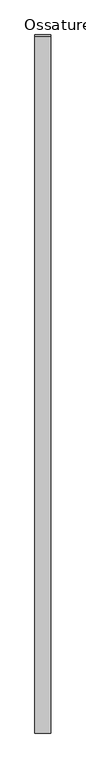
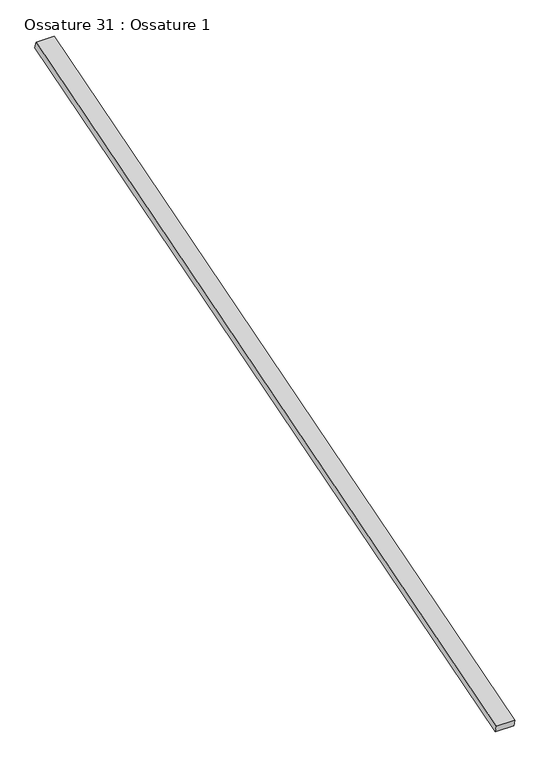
"""IFC4 building model written with IfcOpenShell, lengths in millimetres: beam geometry, Ossature 31 : Ossature 1."""

import ifcopenshell
import ifcopenshell.guid

model = None  # the IFC model being written
_history = None  # IfcOwnerHistory: only IFC2X3 demands one
_inside = {}  # id of a spatial element -> (the spatial element, [elements in it])
_under = {}  # id of a project, library or spatial element -> (it, [spatial elements below it])
_declared = {}  # id of a project -> (the project, [libraries it declares])
_typed = {}  # id of a type object -> (the type object, [elements of that type])
_made_of = {}  # id of a material, layer set ... -> (it, [elements and type objects made of it])


def new_model(schema):
    """Start an empty IFC model of exactly this schema.

    Asked for "IFC4X3", IfcOpenShell would pick the latest addendum, in which some entities
    have other attributes; the version numbers below select the first issue.
    IFC2X3 requires an IfcOwnerHistory on every rooted entity: one is made here for all.
    """
    global model, _history
    if schema == "IFC4X3":
        model = ifcopenshell.file(schema_version=(4, 3, 0, 0))
    else:
        model = ifcopenshell.file(schema=schema)
    _inside.clear()
    _under.clear()
    _declared.clear()
    _typed.clear()
    _made_of.clear()
    _history = None
    if model.schema == "IFC2X3":
        org = make("IfcOrganization", Name="unknown")
        user = make(
            "IfcPersonAndOrganization",
            ThePerson=make("IfcPerson", FamilyName="unknown"),
            TheOrganization=org,
        )
        app = make(
            "IfcApplication",
            ApplicationDeveloper=org,
            Version="unknown",
            ApplicationFullName="unknown",
            ApplicationIdentifier="unknown",
        )
        _history = make(
            "IfcOwnerHistory",
            OwningUser=user,
            OwningApplication=app,
            ChangeAction="ADDED",
            CreationDate=0,
        )
    return model


def make(cls, **values):
    """One entity of the class cls with the attributes given. An attribute that is None is left unset."""
    return model.create_entity(
        cls, **{name: value for name, value in values.items() if value is not None}
    )


def rooted(cls, **values):
    """An entity with a GlobalId (a new one), such as an element, a storey or a relation."""
    return make(cls, GlobalId=ifcopenshell.guid.new(), OwnerHistory=_history, **values)


def si_unit(unit_type, name, prefix=None):
    """IfcSIUnit, for example si_unit("LENGTHUNIT", "METRE", prefix="MILLI")."""
    return make("IfcSIUnit", UnitType=unit_type, Prefix=prefix, Name=name)


def assignment(units):
    """IfcUnitAssignment: the units of a project."""
    return None if units is None else make("IfcUnitAssignment", Units=units)


def point(xyz):
    """IfcCartesianPoint."""
    return None if xyz is None else make("IfcCartesianPoint", Coordinates=xyz)


def direction(xyz):
    """IfcDirection."""
    return None if xyz is None else make("IfcDirection", DirectionRatios=xyz)


def frame(location, z_axis=None, x_axis=None):
    """IfcAxis2Placement3D, a coordinate frame: its origin and axes. An axis left out is left unset."""
    return make(
        "IfcAxis2Placement3D",
        Location=point(location),
        Axis=direction(z_axis),
        RefDirection=direction(x_axis),
    )


def origin():
    """The frame at (0, 0, 0) with its axes left unset."""
    return frame((0.0, 0.0, 0.0))


def place(relative_to, where):
    """IfcLocalPlacement: puts the frame where relative to a parent placement (None: the world)."""
    return make(
        "IfcLocalPlacement", PlacementRelTo=relative_to, RelativePlacement=where
    )


def context(
    kind, dimensions, precision=None, world=None, true_north=None, identifier=None
):
    """IfcGeometricRepresentationContext, for example the 3D "Model" context."""
    return make(
        "IfcGeometricRepresentationContext",
        ContextIdentifier=identifier,
        ContextType=kind,
        CoordinateSpaceDimension=dimensions,
        Precision=precision,
        WorldCoordinateSystem=world,
        TrueNorth=true_north,
    )


def project(units=None, contexts=None):
    """IfcProject with its units and contexts."""
    return rooted(
        "IfcProject",
        Name="project",
        RepresentationContexts=contexts,
        UnitsInContext=assignment(units),
    )


def spatial(cls, under=None, at=None, **own):
    """A site, building, storey or space (cls), placed at a placement, below another one or the project."""
    s = rooted(cls, ObjectPlacement=at, **own)
    if under is not None:
        _under.setdefault(under.id(), (under, []))[1].append(s)
    return s


def polyline(points):
    """IfcPolyline through the points."""
    return make("IfcPolyline", Points=[point(p) for p in points])


def outline(outer, holes=None, kind="AREA"):
    """IfcArbitraryClosedProfileDef: a profile drawn as a closed curve; with holes, ...WithVoids."""
    if holes is None:
        return make("IfcArbitraryClosedProfileDef", ProfileType=kind, OuterCurve=outer)
    return make(
        "IfcArbitraryProfileDefWithVoids",
        ProfileType=kind,
        OuterCurve=outer,
        InnerCurves=holes,
    )


def extrude(swept, where, along, depth):
    """IfcExtrudedAreaSolid: the profile swept, set in the frame where, extruded along a direction by depth."""
    return make(
        "IfcExtrudedAreaSolid",
        SweptArea=swept,
        Position=where,
        ExtrudedDirection=direction(along),
        Depth=depth,
    )


def shape(context_of_items, identifier, shape_type, items):
    """IfcShapeRepresentation: the items that make up one representation, for example the "Body"."""
    return make(
        "IfcShapeRepresentation",
        ContextOfItems=context_of_items,
        RepresentationIdentifier=identifier,
        RepresentationType=shape_type,
        Items=items,
    )


def source(mapping_origin, context_of_items, identifier, shape_type, items):
    """IfcRepresentationMap: a shape defined once, which mapped items show again and again."""
    return make(
        "IfcRepresentationMap",
        MappingOrigin=mapping_origin,
        MappedRepresentation=shape(context_of_items, identifier, shape_type, items),
    )


def transform(
    local_origin,
    x_axis=None,
    y_axis=None,
    z_axis=None,
    scale=None,
    scale2=None,
    scale3=None,
    uniform=True,
):
    """IfcCartesianTransformationOperator3D, or its non-uniform kind. x_axis, y_axis, z_axis: its Axis1, 2, 3."""
    if uniform:
        return make(
            "IfcCartesianTransformationOperator3D",
            Axis1=direction(x_axis),
            Axis2=direction(y_axis),
            LocalOrigin=point(local_origin),
            Scale=scale,
            Axis3=direction(z_axis),
        )
    return make(
        "IfcCartesianTransformationOperator3DnonUniform",
        Axis1=direction(x_axis),
        Axis2=direction(y_axis),
        LocalOrigin=point(local_origin),
        Scale=scale,
        Axis3=direction(z_axis),
        Scale2=scale2,
        Scale3=scale3,
    )


def mapped(mapping_source, mapping_target):
    """IfcMappedItem: shows the shape of a source again, moved by a transform."""
    return make(
        "IfcMappedItem", MappingSource=mapping_source, MappingTarget=mapping_target
    )


def made_of(thing, what):
    """Note that an element or type object is made of a material, layer set ...; save() writes the relation."""
    if what is not None:
        _made_of.setdefault(what.id(), (what, []))[1].append(thing)
    return thing


def element(
    cls,
    number,
    at=None,
    inside=None,
    cuts=None,
    type_object=None,
    material=None,
    context=None,
    identifier="Body",
    shape_type=None,
    held_by="IfcProductDefinitionShape",
    body=None,
    shapes=None,
    **own,
):
    """One element of the class cls, such as IfcWall. Its Tag is "e" and its number.

    at: its placement. inside: the storey or other place that contains it. cuts: it is an
    opening in that element (IfcRelVoidsElement). A single representation is given by context,
    identifier, shape_type and body (its items); several are given by shapes. held_by: the class
    of the entity that holds the representations. save() writes the other relations.
    """
    e = rooted(cls, Tag="e%d" % number, ObjectPlacement=at, **own)
    if body is not None:
        shapes = [shape(context, identifier, shape_type, body)]
    if shapes is not None:
        e.Representation = make(held_by, Representations=shapes)
    if inside is not None:
        _inside.setdefault(inside.id(), (inside, []))[1].append(e)
    if cuts is not None:
        rooted(
            "IfcRelVoidsElement", RelatingBuildingElement=cuts, RelatedOpeningElement=e
        )
    if type_object is not None:
        _typed.setdefault(type_object.id(), (type_object, []))[1].append(e)
    return made_of(e, material)


def aggregate(whole, parts):
    """IfcRelAggregates: a whole, such as a stair, and the parts it consists of."""
    return rooted("IfcRelAggregates", RelatingObject=whole, RelatedObjects=parts)


def save(model, path):
    """Write the relations noted so far, then the file.

    IfcRelAggregates (storeys below a building ...), IfcRelContainedInSpatialStructure (elements
    in a storey), IfcRelDefinesByType, IfcRelAssociatesMaterial and IfcRelDeclares: one each for
    every whole, place, type object, material and project.
    """
    for whole, parts in _under.values():
        aggregate(whole, parts)
    for where, things in _inside.values():
        rooted(
            "IfcRelContainedInSpatialStructure",
            RelatedElements=things,
            RelatingStructure=where,
        )
    for kind, things in _typed.values():
        rooted("IfcRelDefinesByType", RelatedObjects=things, RelatingType=kind)
    for what, things in _made_of.values():
        rooted("IfcRelAssociatesMaterial", RelatedObjects=things, RelatingMaterial=what)
    for by, libraries in _declared.values():
        rooted("IfcRelDeclares", RelatingContext=by, RelatedDefinitions=libraries)
    model.write(path)


def ossature_31_ossature_1_860a0a68(model_context):
    return source(origin(), model_context, "Body", "SweptSolid", [
        extrude(outline(polyline([(0.0, 0.0), (0.0, -4543.0299679), (-100.0, -4543.0299679), (-100.0, 0.0), (0.0, 0.0)])), frame((7687.4466393, -833.3913565, 8153.6336115), z_axis=(0.0, -0.28734788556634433, 0.9578262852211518), x_axis=(-1.0, 0.0, 0.0)), (0.0, 0.0, 1.0), 40.0),
    ])


if __name__ == "__main__":
    model = new_model("IFC4")
    model_context = context("Model", 3, world=origin())
    ifc_project = project(units=[si_unit("LENGTHUNIT", "METRE", prefix="MILLI")], contexts=[model_context])
    site = spatial("IfcSite", under=ifc_project)
    building = spatial("IfcBuilding", under=site)
    placement = place(None, origin())
    ossature_31_ossature_1_shape = ossature_31_ossature_1_860a0a68(model_context)
    element("IfcBeam", 1, ObjectType="Ossature 31 : Ossature 1", at=placement, inside=building, context=model_context, shape_type="MappedRepresentation", body=[
        mapped(ossature_31_ossature_1_shape, transform((0.0, 0.0, 0.0), x_axis=(1.0, 0.0, 0.0), y_axis=(0.0, 1.0, 0.0), z_axis=(0.0, 0.0, 1.0))),
    ])
    save(model, "model.ifc")
